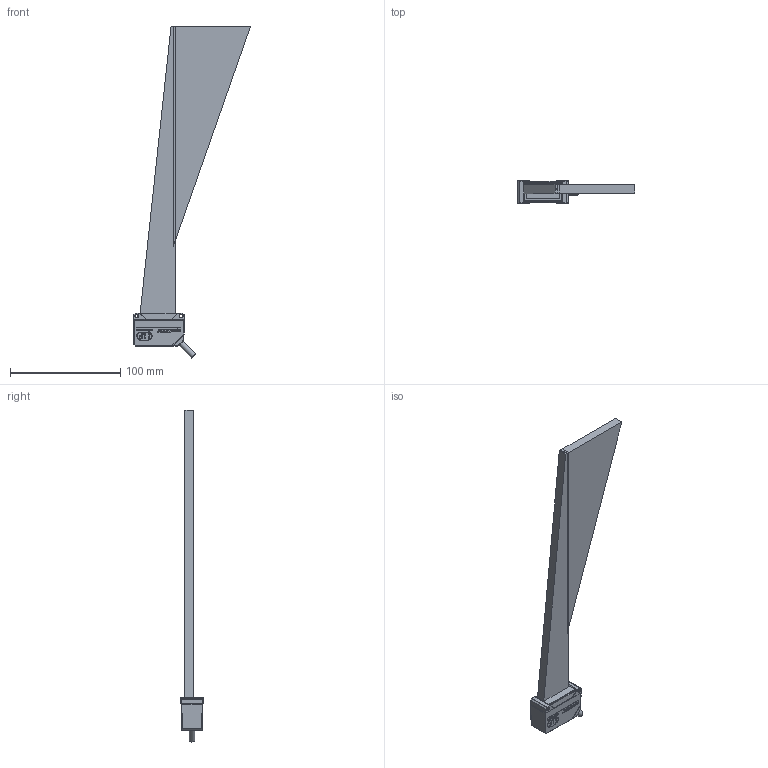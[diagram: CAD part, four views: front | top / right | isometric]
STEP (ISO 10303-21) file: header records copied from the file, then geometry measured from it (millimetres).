
FILE_DESCRIPTION (( 'STEP AP214' ), '1' );
FILE_NAME ('ILD1x20-200_2.STEP', '2025-11-05T10:12:28', ( '' ), ( '' ), 'SwSTEP 2.0', 'SolidWorks 2022', '' );
FILE_SCHEMA (( 'AUTOMOTIVE_DESIGN' ));
Length unit declared in the file: millimetre
Products named in the file (1): ILD1x20-200_2
Bounding box: 105.99 x 20 x 300.71 mm (x, y, z)
Volume: 118931.1 mm3; surface area: 42097.7 mm2
Topology: 10 solids, 10 shells, 2119 faces, 5575 edges, 3603 vertices
Faces by surface type: bspline 1001, plane 905, cylinder 144, torus 26, cone 23, sphere 20
Full cylindrical faces by diameter (mm): 0.7 x1, 0.8 x1, 1.2 x1, 1.6 x2, 2.4 x1, 2.5 x2, 3 x2, 5.4 x1, 7.5 x1, 8 x1
Entity records: 87496 total; most frequent: CARTESIAN_POINT 41437, ORIENTED_EDGE 10956, DIRECTION 6000, EDGE_CURVE 5478, VERTEX_POINT 3577, VECTOR 3100, LINE 3100, EDGE_LOOP 2327
